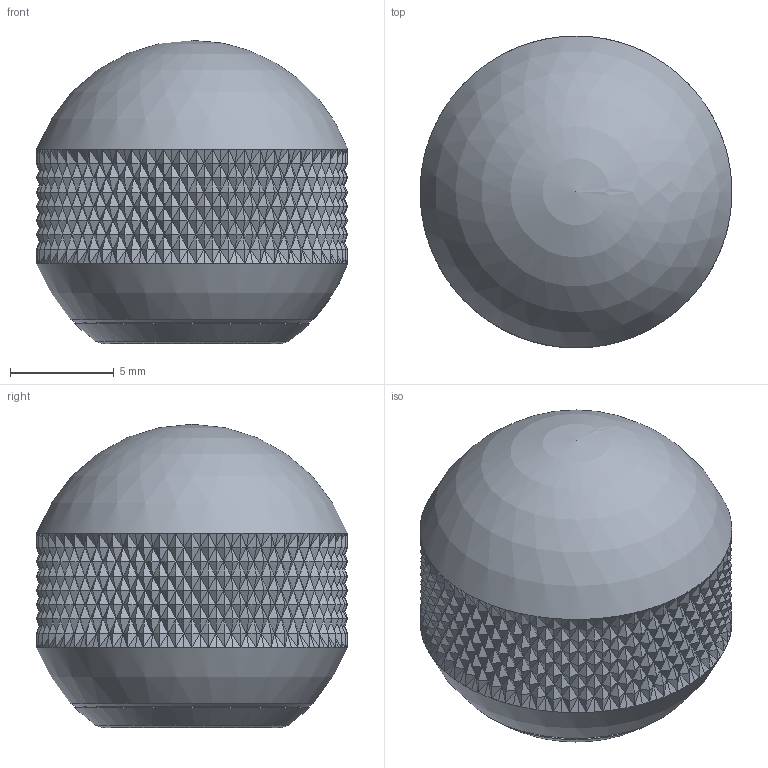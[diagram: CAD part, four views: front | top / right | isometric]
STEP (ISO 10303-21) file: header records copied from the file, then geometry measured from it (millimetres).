
FILE_DESCRIPTION(('Open CASCADE Model'),'2;1');
FILE_NAME('GR-BALL-knob-16','2026-10-19T21:25:16',('Author'),( 'Open CASCADE'),'Open CASCADE STEP processor 8.0','build123d', 'Unknown');
FILE_SCHEMA(('AUTOMOTIVE_DESIGN { 1 0 10303 214 1 1 1 1 }'));
Length unit declared in the file: millimetre
Products named in the file (2): GR-BALL-knob-16; brass_GR-BALL16__k
Assembly tree (1 placements, depth 2):
  GR-BALL-knob-16
    brass_GR-BALL16__k
Bounding box: 15.02 x 15.02 x 14.61 mm (x, y, z)
Volume: 1855.6 mm3; surface area: 978.7 mm2
Topology: 1 solids, 1 shells, 2135 faces, 3204 edges, 1072 vertices
Faces by surface type: plane 2127, sphere 3, cone 2, cylinder 2, bspline 1
Full cylindrical faces by diameter (mm): 3.3 x1, 5.1 x1
Entity records: 80934 total; most frequent: CARTESIAN_POINT 15627, DIRECTION 11406, ORIENTED_EDGE 6406, PCURVE 6406, DEFINITIONAL_REPRESENTATION 6406, LINE 6402, VECTOR 6402, EDGE_CURVE 3203
